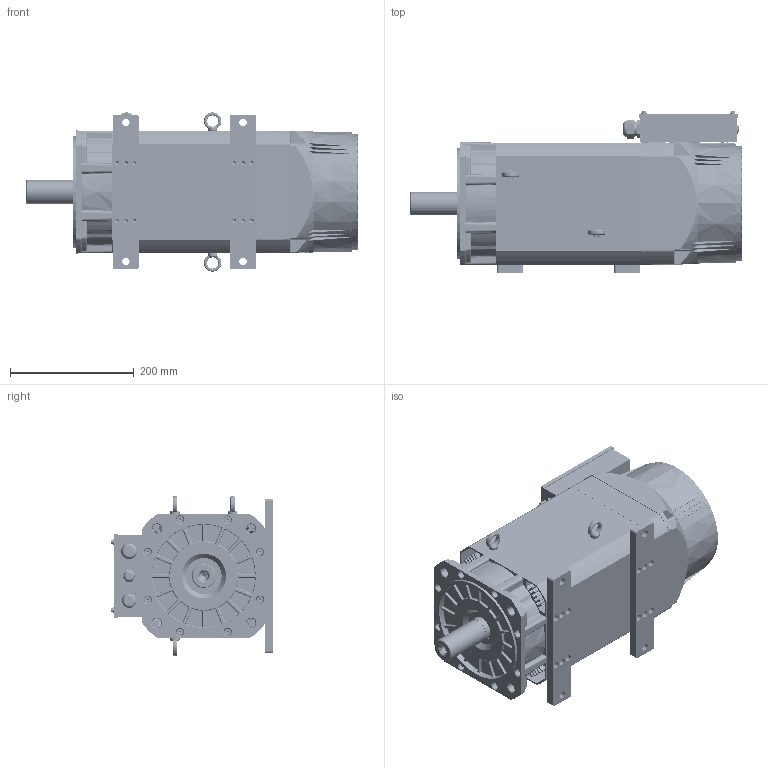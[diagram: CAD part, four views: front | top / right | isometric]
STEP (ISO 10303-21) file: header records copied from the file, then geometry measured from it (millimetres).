
FILE_DESCRIPTION (( 'STEP AP203' ), '1' );
FILE_NAME ('200L-B35-38J 俋倛芞.STEP', '2022-04-15T07:53:15', ( '' ), ( '' ), 'SwSTEP 2.0', 'SolidWorks 2016', '' );
FILE_SCHEMA (( 'CONFIG_CONTROL_DESIGN' ));
Length unit declared in the file: millimetre
Products named in the file (28): 200风机过线圈; 200粣3.7kw; 晤鎢ん啣; 接线盒风罩后盖组件; 200瑤脣ヶ堤盄諉盄碟; ヶ裔粣郪璃; M8X12裂遠; M20X1.5蹟杶; cross recessed pan head screws gb_GB_CROSS_SCREWS_TYPE1 M3X12-12  H type-N; UVW隅砱梓ワ; 200諉盄翐; 200呿蹋瑞欶; 200諉盄碟裔; 200L儂褲1; cross recessed pan head screws gb_GB_CROSS_SCREWS_TYPE1 M4X5-5  H type-N; 200諉盄碟裔躇猾菜; cross recessed cheese head screws gb_GB_CROSS_SCREWS_TYPE2 M4X10-10  H type-N; 200綴裔; 200諉盄碟窒璃; 晤鎢ん橈埽翐; 200L-B35-38J  俋倛芞; 200ヶ裔-171102; plain washers-n series-grade a gb_GB_FASTENER_WASHER_PWNA 4; M16X1.5蹟杶; M24X1.5蹟杶; spring lock washers--normal type gb_GB_FASTENER_WASHER_SW 4; 200菁褐; 晤鎢ん隅砱梓ワ
Assembly tree (46 placements, depth 4):
  200L-B35-38J  俋倛芞
    200L儂褲1
    ヶ裔粣郪璃
      200ヶ裔-171102
      200粣3.7kw
    接线盒风罩后盖组件
      200綴裔
      200呿蹋瑞欶
      200諉盄碟窒璃
        200瑤脣ヶ堤盄諉盄碟
        M24X1.5蹟杶
        200风机过线圈
        M20X1.5蹟杶
        M16X1.5蹟杶
        200諉盄翐
        晤鎢ん橈埽翐  x4
        晤鎢ん啣
        200諉盄碟裔躇猾菜
        200諉盄碟裔
        UVW隅砱梓ワ
        晤鎢ん隅砱梓ワ
        cross recessed cheese head screws gb_GB_CROSS_SCREWS_TYPE2 M4X10-10  H type-N  x4
        spring lock washers--normal type gb_GB_FASTENER_WASHER_SW 4  x4
        plain washers-n series-grade a gb_GB_FASTENER_WASHER_PWNA 4  x4
        cross recessed pan head screws gb_GB_CROSS_SCREWS_TYPE1 M3X12-12  H type-N  x4
        cross recessed pan head screws gb_GB_CROSS_SCREWS_TYPE1 M4X5-5  H type-N  x2
    200菁褐  x2
    M8X12裂遠  x3
Bounding box: 535.5 x 261.85 x 257 mm (x, y, z)
Volume: 4182030.4 mm3; surface area: 1519476.5 mm2
Topology: 43 solids, 43 shells, 5439 faces, 13528 edges, 8159 vertices
Faces by surface type: bspline 2052, cylinder 1329, plane 1150, cone 757, torus 139, sphere 12
Entity records: 214603 total; most frequent: CARTESIAN_POINT 103709, ORIENTED_EDGE 24990, DIRECTION 19408, EDGE_CURVE 12495, AXIS2_PLACEMENT_3D 7797, VERTEX_POINT 7581, EDGE_LOOP 5486, FACE_OUTER_BOUND 5077
